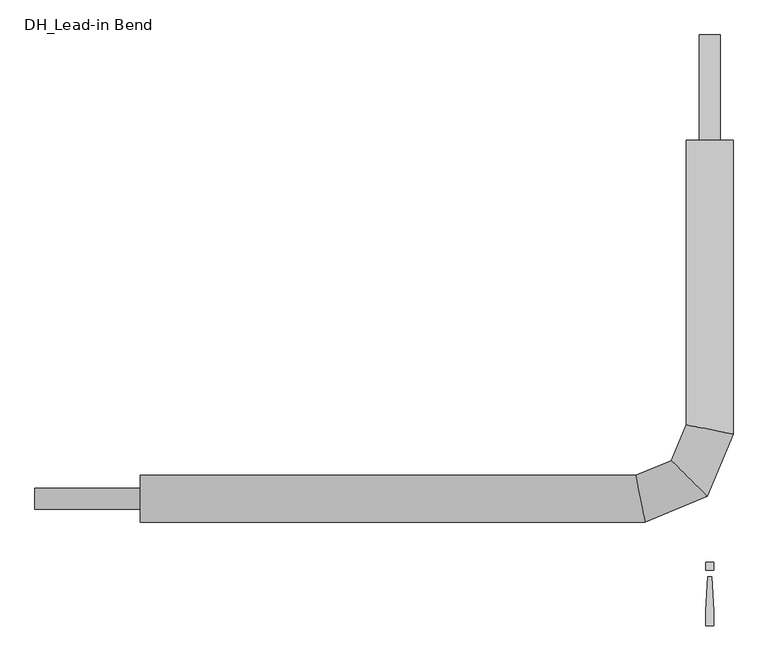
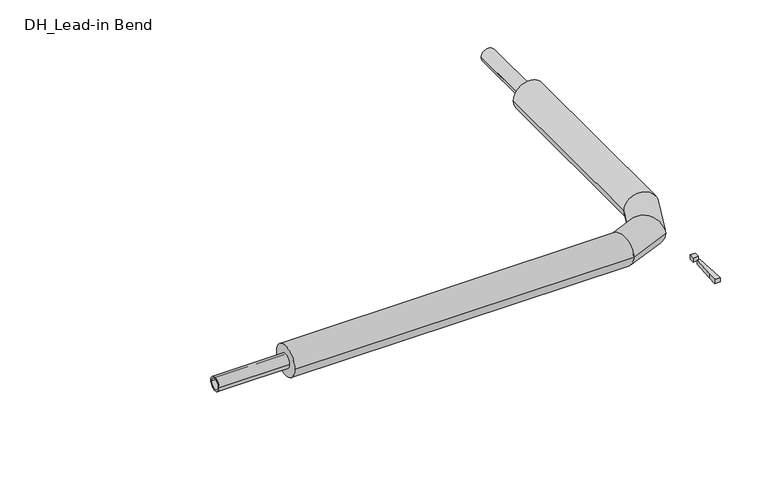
"""IFC4 building model written with IfcOpenShell, lengths in millimetres: pipe fitting geometry, DH_Lead-in Bend : RVT/RVX/RTX UNO 7.4 DW."""

from ifc_helpers import new_model, si_unit, point, frame, origin, origin_with_axes, origin_2d, place, context, project, spatial, polyline, circle_curve, ellipse_curve, trimmed, segment, composite_curve, outline, extrude, source, transform, mapped, element, save
from ifc_brep_helpers import plane_surface, cylinder_surface, advanced_brep


def dh_lead_in_bend_9773693a(model_context):
    return source(origin(), model_context, "Body", "SolidModel", [
        advanced_brep(
        [(-1350.0, -55.5, 0.0), (-1350.0, 55.5, 0.0), (-153.5603636, -55.5, 0.0), (-175.6396364, 55.5, 0.0), (55.5, 850.0, 0.0), (-55.5, 850.0, 0.0), (-55.5, 175.6396364, 0.0), (55.5, 153.5603636, 0.0), (-5.7323628, 5.7323628, 0.0), (-90.6880848, 90.6880848, 0.0)],
        [
            (0, 1, circle_curve(frame((-1350.0, 0.0, 0.0), z_axis=(-1.0, 0.0, 0.0), x_axis=(0.0, 1.0, 0.0)), 55.5)),
            (1, 0, circle_curve(frame((-1350.0, 0.0, 0.0), z_axis=(-1.0, 0.0, 0.0), x_axis=(0.0, 1.0, 0.0)), 55.5)),
            (0, 2),
            (2, 3, ellipse_curve(frame((-164.6, 0.0, 0.0), z_axis=(-0.9807852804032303, -0.19509032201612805, 0.0), x_axis=(-0.19509032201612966, 0.9807852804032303, 0.0)), 56.5873093, 55.5)),
            (3, 1),
            (3, 2, ellipse_curve(frame((-164.6, 0.0, 0.0), z_axis=(-0.9807852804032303, -0.19509032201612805, 0.0), x_axis=(-0.19509032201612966, 0.9807852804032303, 0.0)), 56.5873093, 55.5)),
            (4, 5, circle_curve(frame((0.0, 850.0, 0.0), z_axis=(0.0, 1.0, 0.0), x_axis=(-1.0, 0.0, 0.0)), 55.5)),
            (5, 4, circle_curve(frame((0.0, 850.0, 0.0), z_axis=(0.0, 1.0, 0.0), x_axis=(-1.0, 0.0, 0.0)), 55.5)),
            (6, 7, ellipse_curve(frame((0.0, 164.6, 0.0), z_axis=(0.1950903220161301, 0.9807852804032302, 0.0), x_axis=(0.9807852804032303, -0.19509032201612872, 0.0)), 56.5873093, 55.5)),
            (7, 4),
            (5, 6),
            (7, 6, ellipse_curve(frame((0.0, 164.6, 0.0), z_axis=(0.1950903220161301, 0.9807852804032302, 0.0), x_axis=(0.9807852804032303, -0.19509032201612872, 0.0)), 56.5873093, 55.5)),
            (2, 8),
            (8, 9, ellipse_curve(frame((-48.2102238, 48.2102238, 0.0), z_axis=(-0.7071067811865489, -0.707106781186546, 0.0), x_axis=(-0.7071067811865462, 0.7071067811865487, 0.0)), 60.0727671, 55.5)),
            (9, 3),
            (9, 8, ellipse_curve(frame((-48.2102238, 48.2102238, 0.0), z_axis=(-0.7071067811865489, -0.707106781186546, 0.0), x_axis=(-0.7071067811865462, 0.7071067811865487, 0.0)), 60.0727671, 55.5)),
            (8, 7),
            (6, 9),
        ],
        [
            plane_surface(frame((-1350.0, 0.0, 0.0), z_axis=(-1.0, 0.0, 0.0), x_axis=(0.0, 0.0, 1.0))),
            cylinder_surface(frame((-1350.0, 0.0, 0.0), z_axis=(-1.0, 0.0, 0.0), x_axis=(0.0, 1.0, 0.0)), 55.5),
            plane_surface(frame((0.0, 850.0, 0.0), z_axis=(0.0, 1.0, 0.0), x_axis=(0.0, 0.0, 1.0))),
            cylinder_surface(frame((0.0, 164.6, 0.0), z_axis=(0.0, -1.0, 0.0), x_axis=(-1.0, 0.0, 0.0)), 55.5),
            cylinder_surface(frame((-164.6, 0.0, 0.0), z_axis=(-0.9238795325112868, -0.38268343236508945, 0.0), x_axis=(-0.38268343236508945, 0.9238795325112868, 0.0)), 55.5),
            cylinder_surface(frame((-48.2102238, 48.2102238, 0.0), z_axis=(-0.3826834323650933, -0.9238795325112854, 0.0), x_axis=(-0.9238795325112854, 0.3826834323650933, 0.0)), 55.5),
        ],
        [
            (0, [[1, 2]]),
            (1, [[-1, 3, 4, 5]]),
            (1, [[-2, -5, 6, -3]]),
            (2, [[7, 8]]),
            (3, [[9, 10, -8, 11]]),
            (3, [[12, -11, -7, -10]]),
            (4, [[-4, 13, 14, 15]]),
            (4, [[-6, -15, 16, -13]]),
            (5, [[-14, 17, -9, 18]]),
            (5, [[-16, -18, -12, -17]]),
        ],
    ),
        extrude(outline(polyline([(4.7088895, -185.3166715), (9.4177791, -266.6553807), (9.4177791, -300.6844652), (-9.4177791, -300.6844652), (-9.4177791, -266.6553807), (-4.7088895, -185.3166715), (4.7088895, -185.3166715)])), origin_with_axes(), (0.0, 0.0, 1.0), 15.0),
        extrude(outline(polyline([(9.4177791, -150.0), (9.4177791, -168.8355582), (-9.4177791, -168.8355582), (-9.4177791, -150.0), (9.4177791, -150.0)])), origin_with_axes(), (0.0, 0.0, 1.0), 15.0),
        extrude(outline(composite_curve([segment(trimmed(circle_curve(origin_2d(), 25.0), [point((-25.0, 0.0))], [point((25.0, 0.0))], False, "CARTESIAN"), True, "CONTINUOUS"), segment(trimmed(circle_curve(origin_2d(), 25.0), [point((25.0, 0.0))], [point((-25.0, 0.0))], False, "CARTESIAN"), True, "CONTINUOUS")], self_intersect=False), holes=[composite_curve([segment(trimmed(circle_curve(origin_2d(), 18.1), [point((-18.1, 0.0))], [point((18.1, 0.0))], True, "CARTESIAN"), True, "CONTINUOUS"), segment(trimmed(circle_curve(origin_2d(), 18.1), [point((18.1, 0.0))], [point((-18.1, 0.0))], True, "CARTESIAN"), True, "CONTINUOUS")], self_intersect=False)]), frame((-1600.0, 0.0, 0.0), z_axis=(1.0, 0.0, 0.0), x_axis=(0.0, 1.0, 0.0)), (0.0, 0.0, 1.0), 250.0),
        extrude(outline(composite_curve([segment(trimmed(circle_curve(origin_2d(), 25.0), [point((0.0, 25.0))], [point((0.0, -25.0))], False, "CARTESIAN"), True, "CONTINUOUS"), segment(trimmed(circle_curve(origin_2d(), 25.0), [point((0.0, -25.0))], [point((0.0, 25.0))], False, "CARTESIAN"), True, "CONTINUOUS")], self_intersect=False), holes=[composite_curve([segment(trimmed(circle_curve(origin_2d(), 18.1), [point((0.0, 18.1))], [point((0.0, -18.1))], True, "CARTESIAN"), True, "CONTINUOUS"), segment(trimmed(circle_curve(origin_2d(), 18.1), [point((0.0, -18.1))], [point((0.0, 18.1))], True, "CARTESIAN"), True, "CONTINUOUS")], self_intersect=False)]), frame((0.0, 850.0, 0.0), z_axis=(0.0, 1.0, 0.0), x_axis=(0.0, 0.0, 1.0)), (0.0, 0.0, 1.0), 250.0),
    ])


if __name__ == "__main__":
    model = new_model("IFC4")
    model_context = context("Model", 3, world=origin())
    ifc_project = project(units=[si_unit("LENGTHUNIT", "METRE", prefix="MILLI")], contexts=[model_context])
    site = spatial("IfcSite", under=ifc_project)
    building = spatial("IfcBuilding", under=site)
    placement = place(None, origin())
    dh_lead_in_bend_shape = dh_lead_in_bend_9773693a(model_context)
    element("IfcPipeFitting", 1, ObjectType="DH_Lead-in Bend : RVT/RVX/RTX UNO 7.4 DW", at=placement, inside=building, context=model_context, shape_type="MappedRepresentation", body=[
        mapped(dh_lead_in_bend_shape, transform((0.0, 0.0, 0.0), x_axis=(1.0, 0.0, 0.0), y_axis=(0.0, 1.0, 0.0), z_axis=(0.0, 0.0, 1.0))),
    ])
    save(model, "model.ifc")
